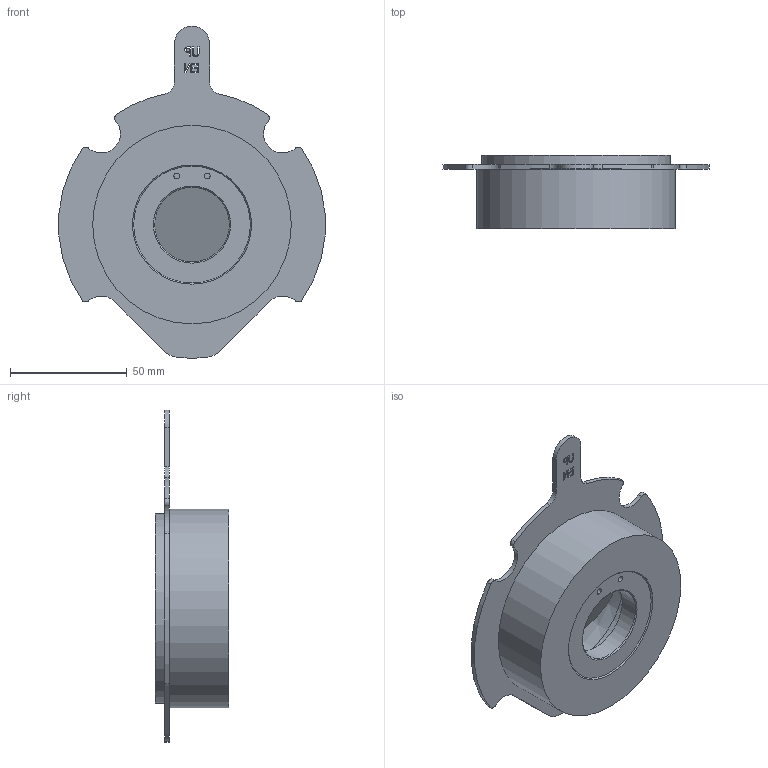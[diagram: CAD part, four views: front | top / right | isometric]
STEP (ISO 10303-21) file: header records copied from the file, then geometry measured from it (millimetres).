
FILE_DESCRIPTION(/* description */ (''),/* implementation_level */ '2;1');
FILE_NAME(/* name */ 'H:\nakaot\Inventor\COS\ckf5m-040-wafer-01.stp',/* time_stamp */ '2016-12-28T13:39:00+09:00',/* author */ ('nakaot'),/* organization */ (''),/* preprocessor_version */ 'ST-DEVELOPER v15.6',/* originating_system */ 'Autodesk Inventor 2015',/* authorisation */ '');
FILE_SCHEMA (('CONFIG_CONTROL_DESIGN'));
Length unit declared in the file: millimetre
Products named in the file (1): ckf5m-040-wafer-01
Bounding box: 113.88 x 31.5 x 142.11 mm (x, y, z)
Volume: 121882.7 mm3; surface area: 35491.4 mm2
Topology: 3 solids, 3 shells, 123 faces, 323 edges, 216 vertices
Faces by surface type: plane 63, cylinder 36, bspline 16, cone 6, torus 2
Full cylindrical faces by diameter (mm): 1.6 x2, 1.8 x2, 2.5 x2, 2.6 x2, 4 x2, 32 x1, 56.279 x1, 81 x1, 82 x1, 85 x1
Entity records: 3918 total; most frequent: CARTESIAN_POINT 1036, ORIENTED_EDGE 580, DIRECTION 542, EDGE_CURVE 290, VERTEX_POINT 206, AXIS2_PLACEMENT_3D 188, EDGE_LOOP 170, LINE 166
